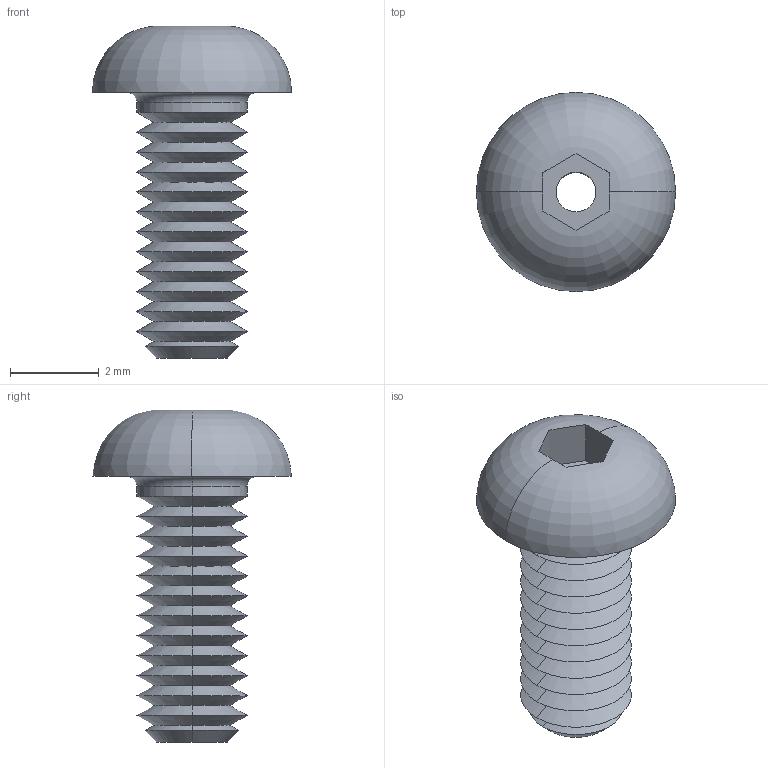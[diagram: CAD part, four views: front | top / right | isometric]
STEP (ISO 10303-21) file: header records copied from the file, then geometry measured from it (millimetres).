
FILE_DESCRIPTION (( 'STEP AP203' ), '1' );
FILE_NAME ('P0094.025-006-A2.step', '2019-07-12T16:50:17', ( '' ), ( '' ), 'SwSTEP 2.0', 'SolidWorks 2017', '' );
FILE_SCHEMA (( 'CONFIG_CONTROL_DESIGN' ));
Length unit declared in the file: millimetre
Products named in the file (1): P0094.025-006-A2
Bounding box: 4.5 x 4.5 x 7.5 mm (x, y, z)
Volume: 33.6 mm3; surface area: 137.3 mm2
Topology: 1 solids, 1 shells, 67 faces, 140 edges, 76 vertices
Faces by surface type: cone 50, plane 9, cylinder 4, torus 4
Entity records: 1845 total; most frequent: DIRECTION 334, CARTESIAN_POINT 320, ORIENTED_EDGE 280, EDGE_CURVE 140, AXIS2_PLACEMENT_3D 134, VERTEX_POINT 76, EDGE_LOOP 70, ADVANCED_FACE 67
